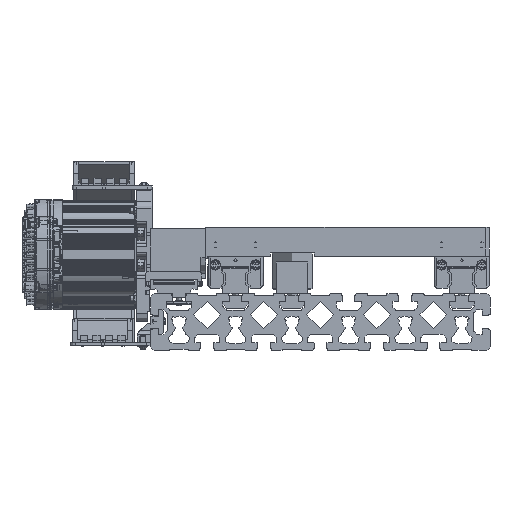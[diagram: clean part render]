
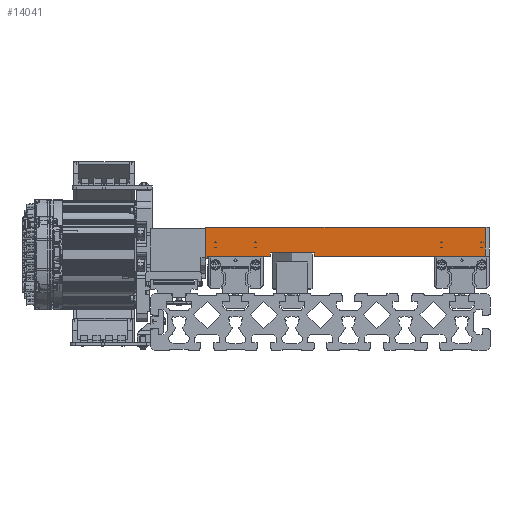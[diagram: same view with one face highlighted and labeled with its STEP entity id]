
A CAD part, front view. The second image highlights one B-rep face of the part: STEP entity #14041.
In plain terms, the highlighted planar face has unit normal (0, -1, 0) as drawn and (1, 0, 0) by its records, which use the part's own axes.
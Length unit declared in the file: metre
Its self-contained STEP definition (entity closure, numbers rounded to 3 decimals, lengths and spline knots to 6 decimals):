
#14041 = ADVANCED_FACE( '', ( #31196 ), #31197, .F. );
#31196 = FACE_OUTER_BOUND( '', #73607, .T. );
#31197 = PLANE( '', #73608 );
#73607 = EDGE_LOOP( '', ( #155344, #155345, #155346, #155347, #155348, #155349, #155350, #155351, #155352, #155353 ) );
#73608 = AXIS2_PLACEMENT_3D( '', #155354, #155355, #155356 );
#155344 = ORIENTED_EDGE( '', *, *, #202835, .F. );
#155345 = ORIENTED_EDGE( '', *, *, #193800, .F. );
#155346 = ORIENTED_EDGE( '', *, *, #202836, .F. );
#155347 = ORIENTED_EDGE( '', *, *, #199686, .T. );
#155348 = ORIENTED_EDGE( '', *, *, #193969, .F. );
#155349 = ORIENTED_EDGE( '', *, *, #202837, .T. );
#155350 = ORIENTED_EDGE( '', *, *, #202838, .T. );
#155351 = ORIENTED_EDGE( '', *, *, #202839, .F. );
#155352 = ORIENTED_EDGE( '', *, *, #202840, .F. );
#155353 = ORIENTED_EDGE( '', *, *, #201028, .F. );
#155354 = CARTESIAN_POINT( '', ( 0.08, -0.01905, 0.11667 ) );
#155355 = DIRECTION( '', ( -1., 0., 0. ) );
#155356 = DIRECTION( '', ( 0., 0., -1. ) );
#193800 = EDGE_CURVE( '', #217362, #217357, #217364, .T. );
#193969 = EDGE_CURVE( '', #217664, #217659, #217666, .T. );
#199686 = EDGE_CURVE( '', #227346, #217659, #227347, .T. );
#201028 = EDGE_CURVE( '', #229481, #229476, #229483, .T. );
#202835 = EDGE_CURVE( '', #217357, #229481, #232281, .T. );
#202836 = EDGE_CURVE( '', #227346, #217362, #232282, .T. );
#202837 = EDGE_CURVE( '', #217664, #232283, #232284, .T. );
#202838 = EDGE_CURVE( '', #232283, #232285, #232286, .T. );
#202839 = EDGE_CURVE( '', #232287, #232285, #232288, .T. );
#202840 = EDGE_CURVE( '', #229476, #232287, #232289, .T. );
#217357 = VERTEX_POINT( '', #253135 );
#217362 = VERTEX_POINT( '', #253142 );
#217364 = LINE( '', #253145, #253146 );
#217659 = VERTEX_POINT( '', #253844 );
#217664 = VERTEX_POINT( '', #253851 );
#217666 = LINE( '', #253853, #253854 );
#227346 = VERTEX_POINT( '', #276581 );
#227347 = LINE( '', #276582, #276583 );
#229476 = VERTEX_POINT( '', #283794 );
#229481 = VERTEX_POINT( '', #283801 );
#229483 = LINE( '', #283804, #283805 );
#232281 = LINE( '', #290696, #290697 );
#232282 = LINE( '', #290698, #290699 );
#232283 = VERTEX_POINT( '', #290700 );
#232284 = LINE( '', #290701, #290702 );
#232285 = VERTEX_POINT( '', #290703 );
#232286 = LINE( '', #290704, #290705 );
#232287 = VERTEX_POINT( '', #290706 );
#232288 = LINE( '', #290707, #290708 );
#232289 = LINE( '', #290709, #290710 );
#253135 = CARTESIAN_POINT( '', ( 0.08, -0.00381, 0.057856 ) );
#253142 = CARTESIAN_POINT( '', ( 0.08, -0.00127, 0.057856 ) );
#253145 = CARTESIAN_POINT( '', ( 0.08, -0.00127, 0.057856 ) );
#253146 = VECTOR( '', #335471, 1. );
#253844 = CARTESIAN_POINT( '', ( 0.08, -0.00381, 0.022804 ) );
#253851 = CARTESIAN_POINT( '', ( 0.08, -0.00381, -0.113495 ) );
#253853 = CARTESIAN_POINT( '', ( 0.08, -0.00381, -0.11667 ) );
#253854 = VECTOR( '', #335738, 1. );
#276581 = CARTESIAN_POINT( '', ( 0.08, -0.00127, 0.022804 ) );
#276582 = CARTESIAN_POINT( '', ( 0.08, -0.00127, 0.022804 ) );
#276583 = VECTOR( '', #343874, 1. );
#283794 = CARTESIAN_POINT( '', ( 0.08, -0.005842, 0.10733 ) );
#283801 = CARTESIAN_POINT( '', ( 0.08, -0.00381, 0.10733 ) );
#283804 = CARTESIAN_POINT( '', ( 0.08, -0.01905, 0.10733 ) );
#283805 = VECTOR( '', #345438, 1. );
#290696 = CARTESIAN_POINT( '', ( 0.08, -0.00381, -0.11667 ) );
#290697 = VECTOR( '', #348038, 1. );
#290698 = CARTESIAN_POINT( '', ( 0.08, -0.00127, 0.022804 ) );
#290699 = VECTOR( '', #348039, 1. );
#290700 = CARTESIAN_POINT( '', ( 0.08, 0.01905, -0.113495 ) );
#290701 = CARTESIAN_POINT( '', ( 0.08, -0.01905, -0.113495 ) );
#290702 = VECTOR( '', #348040, 1. );
#290703 = CARTESIAN_POINT( '', ( 0.08, 0.01905, 0.10905 ) );
#290704 = CARTESIAN_POINT( '', ( 0.08, 0.01905, 0.11667 ) );
#290705 = VECTOR( '', #348041, 1. );
#290706 = CARTESIAN_POINT( '', ( 0.08, -0.005842, 0.10905 ) );
#290707 = CARTESIAN_POINT( '', ( 0.08, 0.01905, 0.10905 ) );
#290708 = VECTOR( '', #348042, 1. );
#290709 = CARTESIAN_POINT( '', ( 0.08, -0.005842, -0.11667 ) );
#290710 = VECTOR( '', #348043, 1. );
#335471 = DIRECTION( '', ( 0., -1., 0. ) );
#335738 = DIRECTION( '', ( 0., 0., 1. ) );
#343874 = DIRECTION( '', ( 0., -1., 0. ) );
#345438 = DIRECTION( '', ( 0., -1., 0. ) );
#348038 = DIRECTION( '', ( 0., 0., 1. ) );
#348039 = DIRECTION( '', ( 0., 0., 1. ) );
#348040 = DIRECTION( '', ( 0., 1., 0. ) );
#348041 = DIRECTION( '', ( 0., 0., 1. ) );
#348042 = DIRECTION( '', ( 0., 1., 0. ) );
#348043 = DIRECTION( '', ( 0., 0., 1. ) );
